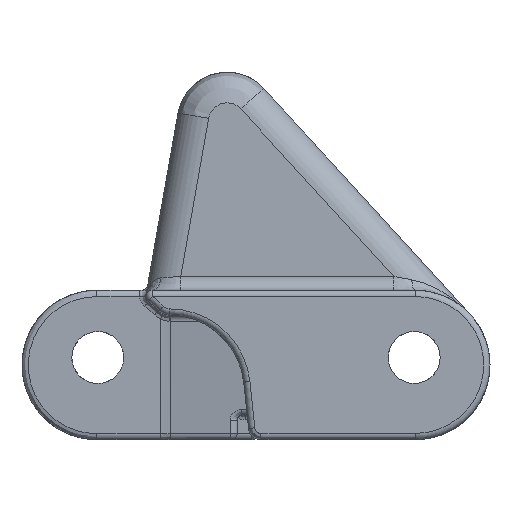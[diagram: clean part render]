
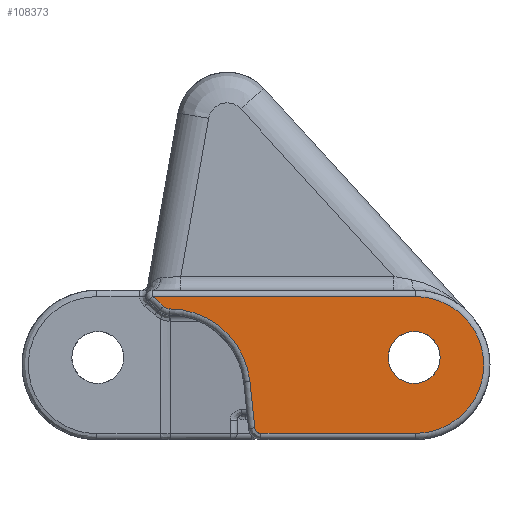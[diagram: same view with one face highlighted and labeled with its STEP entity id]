
A CAD part, left-side view. The second image highlights one B-rep face of the part: STEP entity #108373.
In plain terms, the highlighted planar face has unit normal (-1, 0, 0).
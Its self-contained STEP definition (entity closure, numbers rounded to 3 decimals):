
#34921=CARTESIAN_POINT('',(-145.85,-25.575,12.));
#34922=DIRECTION('',(-1.,0.,0.));
#34923=DIRECTION('',(0.,0.,-1.));
#34924=AXIS2_PLACEMENT_3D('',#34921,#34922,#34923);
#34926=DIRECTION('',(0.,-1.,0.));
#34927=VECTOR('',#34926,24.774);
#34928=CARTESIAN_POINT('',(-145.85,-0.801,1.));
#34929=LINE('',#34928,#34927);
#34930=CARTESIAN_POINT('',(-145.85,-0.801,2.));
#34931=DIRECTION('',(-1.,0.,0.));
#34932=DIRECTION('',(0.,0.995,-0.105));
#34933=AXIS2_PLACEMENT_3D('',#34930,#34931,#34932);
#34935=DIRECTION('',(0.,-0.105,-0.995));
#34936=VECTOR('',#34935,7.476);
#34937=CARTESIAN_POINT('',(-145.85,0.975,9.33));
#34938=LINE('',#34937,#34936);
#34939=CARTESIAN_POINT('',(-145.85,13.935,7.968));
#34940=DIRECTION('',(1.,0.,0.));
#34941=DIRECTION('',(0.,0.,1.));
#34942=AXIS2_PLACEMENT_3D('',#34939,#34940,#34941);
#34944=CARTESIAN_POINT('',(-145.85,13.935,22.268));
#34945=DIRECTION('',(-1.,0.,0.));
#34946=DIRECTION('',(0.,0.73,-0.683));
#34947=AXIS2_PLACEMENT_3D('',#34944,#34945,#34946);
#34949=CARTESIAN_POINT('',(-145.85,23.621,13.2));
#34950=DIRECTION('',(1.,0.,0.));
#34951=DIRECTION('',(0.,-0.577,0.817));
#34952=AXIS2_PLACEMENT_3D('',#34949,#34950,#34951);
#34954=DIRECTION('',(0.,1.,0.));
#34955=VECTOR('',#34954,42.271);
#34956=CARTESIAN_POINT('',(-145.85,-25.575,23.));
#34957=LINE('',#34956,#34955);
#34958=CARTESIAN_POINT('',(-145.85,-25.4,13.2));
#34959=DIRECTION('',(1.,0.,0.));
#34960=DIRECTION('',(0.,0.,-1.));
#34961=AXIS2_PLACEMENT_3D('',#34958,#34959,#34960);
#34963=CARTESIAN_POINT('',(-145.85,-25.4,13.2));
#34964=DIRECTION('',(1.,0.,0.));
#34965=DIRECTION('',(0.,0.,1.));
#34966=AXIS2_PLACEMENT_3D('',#34963,#34964,#34965);
#44218=CARTESIAN_POINT('',(-145.85,-25.4,9.025));
#44219=CARTESIAN_POINT('',(-145.85,-25.4,17.375));
#44220=VERTEX_POINT('',#44218);
#44221=VERTEX_POINT('',#44219);
#45740=CARTESIAN_POINT('',(-145.85,-25.575,1.));
#45741=CARTESIAN_POINT('',(-145.85,-25.575,23.));
#45742=VERTEX_POINT('',#45740);
#45743=VERTEX_POINT('',#45741);
#45748=CARTESIAN_POINT('',(-145.85,16.696,23.));
#45749=VERTEX_POINT('',#45748);
#45754=CARTESIAN_POINT('',(-145.85,14.861,21.401));
#45755=VERTEX_POINT('',#45754);
#45758=CARTESIAN_POINT('',(-145.85,13.935,21.));
#45759=VERTEX_POINT('',#45758);
#45762=CARTESIAN_POINT('',(-145.85,0.975,9.33));
#45763=VERTEX_POINT('',#45762);
#45766=CARTESIAN_POINT('',(-145.85,0.194,1.895));
#45767=VERTEX_POINT('',#45766);
#45770=CARTESIAN_POINT('',(-145.85,-0.801,1.));
#45771=VERTEX_POINT('',#45770);
#108347=CARTESIAN_POINT('',(-145.85,0.,-2.502));
#108348=DIRECTION('',(-1.,0.,0.));
#108349=DIRECTION('',(0.,1.,0.));
#108350=AXIS2_PLACEMENT_3D('',#108347,#108348,#108349);
#108351=PLANE('',#108350);
#108353=ORIENTED_EDGE('',*,*,#108352,.F.);
#108355=ORIENTED_EDGE('',*,*,#108354,.F.);
#108357=ORIENTED_EDGE('',*,*,#108356,.F.);
#108359=ORIENTED_EDGE('',*,*,#108358,.F.);
#108360=ORIENTED_EDGE('',*,*,#108337,.F.);
#108362=ORIENTED_EDGE('',*,*,#108361,.F.);
#108364=ORIENTED_EDGE('',*,*,#108363,.F.);
#108366=ORIENTED_EDGE('',*,*,#108365,.F.);
#108367=EDGE_LOOP('',(#108353,#108355,#108357,#108359,#108360,#108362,#108364,
#108366));
#108368=FACE_OUTER_BOUND('',#108367,.F.);
#108369=ORIENTED_EDGE('',*,*,#59720,.F.);
#108370=ORIENTED_EDGE('',*,*,#59936,.F.);
#108371=EDGE_LOOP('',(#108369,#108370));
#108372=FACE_BOUND('',#108371,.F.);
#34925=CIRCLE('',#34924,11.);
#34934=CIRCLE('',#34933,1.);
#34943=CIRCLE('',#34942,13.032);
#34948=CIRCLE('',#34947,1.268);
#34953=CIRCLE('',#34952,12.);
#34962=CIRCLE('',#34961,4.175);
#34967=CIRCLE('',#34966,4.175);
#59720=EDGE_CURVE('',#44220,#44221,#34962,.T.);
#59936=EDGE_CURVE('',#44221,#44220,#34967,.T.);
#108337=EDGE_CURVE('',#45759,#45763,#34943,.T.);
#108352=EDGE_CURVE('',#45742,#45743,#34925,.T.);
#108354=EDGE_CURVE('',#45771,#45742,#34929,.T.);
#108356=EDGE_CURVE('',#45767,#45771,#34934,.T.);
#108358=EDGE_CURVE('',#45763,#45767,#34938,.T.);
#108361=EDGE_CURVE('',#45755,#45759,#34948,.T.);
#108363=EDGE_CURVE('',#45749,#45755,#34953,.T.);
#108365=EDGE_CURVE('',#45743,#45749,#34957,.T.);
#108373=ADVANCED_FACE('',(#108368,#108372),#108351,.T.);
